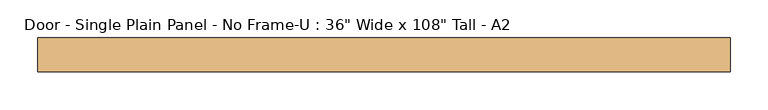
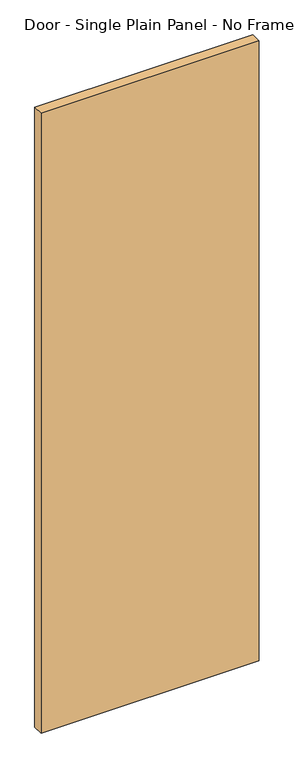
"""IFC4 building model written with IfcOpenShell, lengths in millimetres: door geometry."""

from ifc_helpers import new_model, si_unit, origin, origin_with_axes, place, context, project, spatial, polyline, outline, extrude, source, transform, mapped, element, save


def door_e2241045(model_context):
    return source(origin(), model_context, "Body", "SweptSolid", [
        extrude(outline(polyline([(457.2, -31.75), (457.2, -76.2), (-457.2, -76.2), (-457.2, -31.75), (457.2, -31.75)])), origin_with_axes(), (0.0, 0.0, 1.0), 2743.2),
    ])


if __name__ == "__main__":
    model = new_model("IFC4")
    model_context = context("Model", 3, world=origin())
    ifc_project = project(units=[si_unit("LENGTHUNIT", "METRE", prefix="MILLI")], contexts=[model_context])
    site = spatial("IfcSite", under=ifc_project)
    building = spatial("IfcBuilding", under=site)
    placement = place(None, origin())
    door_shape = door_e2241045(model_context)
    element("IfcDoor", 1, ObjectType="Door - Single Plain Panel - No Frame-U : 36\" Wide x 108\" Tall - A2", at=placement, inside=building, context=model_context, shape_type="MappedRepresentation", body=[
        mapped(door_shape, transform((0.0, 0.0, 0.0), x_axis=(1.0, 0.0, 0.0), y_axis=(0.0, 1.0, 0.0), z_axis=(0.0, 0.0, 1.0))),
    ])
    save(model, "model.ifc")
